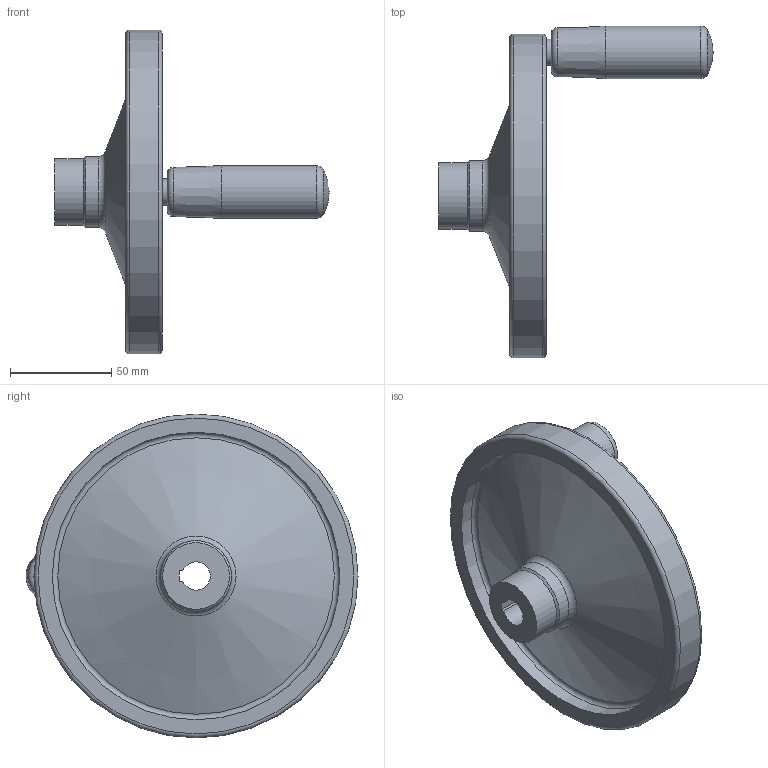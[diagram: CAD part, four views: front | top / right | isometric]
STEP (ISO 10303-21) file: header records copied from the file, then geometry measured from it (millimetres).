
FILE_DESCRIPTION( ( 'STEP AP203' ), '1' );
FILE_NAME( 'C:/Temp/Ganter_Step_05_03_2020/data/1_3/gn_321_5/gn_321_5_d/gn_321_5_d_dr/Safety handwheel GN 321.5-160-K14-D-DR.stp', '2020-03-05T10:42:41', ( 'License CC BY-ND 4.0' ), ( 'CADENAS' ), ' ', 'PARTsolutions', ' ' );
FILE_SCHEMA( ( 'CONFIG_CONTROL_DESIGN' ) );
Length unit declared in the file: millimetre
Products named in the file (1): _Safety handwheel GN 321.5-160-K14-D-DR
Bounding box: 135.5 x 164 x 160 mm (x, y, z)
Volume: 255905.2 mm3; surface area: 69003.4 mm2
Topology: 1 solids, 1 shells, 31 faces, 60 edges, 35 vertices
Faces by surface type: cylinder 9, plane 9, torus 7, cone 5, sphere 1
Full cylindrical faces by diameter (mm): 13 x1, 26 x1, 33 x2, 35 x1, 122 x1, 142 x1, 160 x1
Entity records: 720 total; most frequent: DIRECTION 130, CARTESIAN_POINT 105, ORIENTED_EDGE 76, AXIS2_PLACEMENT_3D 60, EDGE_LOOP 58, FACE_OUTER_BOUND 46, EDGE_CURVE 38, VERTEX_POINT 35
